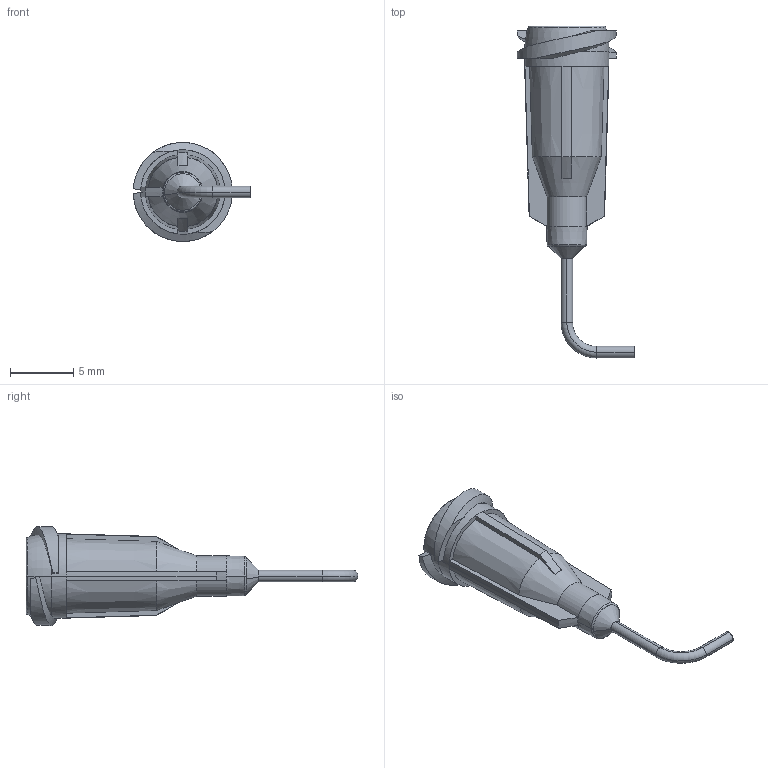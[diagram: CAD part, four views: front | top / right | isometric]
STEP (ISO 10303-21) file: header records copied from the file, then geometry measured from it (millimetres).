
FILE_DESCRIPTION (( 'STEP AP214' ), '1' );
FILE_NAME ('NORDSONEFD-7018176 TIP 20GA GP 023 90D PK.STEP', '2020-03-27T09:54:30', ( '' ), ( '' ), 'SwSTEP 2.0', 'SolidWorks 2019', '' );
FILE_SCHEMA (( 'AUTOMOTIVE_DESIGN' ));
Length unit declared in the file: inch
Products named in the file (1): NORDSONEFD-7018176 TIP 20GA GP 023 90D PK
Bounding box: 9.27 x 26.19 x 7.81 mm (x, y, z)
Volume: 267.3 mm3; surface area: 603.9 mm2
Topology: 1 solids, 1 shells, 128 faces, 298 edges, 176 vertices
Faces by surface type: torus 38, cylinder 30, plane 26, cone 22, bspline 12
Entity records: 4524 total; most frequent: CARTESIAN_POINT 1137, DIRECTION 646, ORIENTED_EDGE 596, EDGE_CURVE 298, AXIS2_PLACEMENT_3D 287, VERTEX_POINT 176, CIRCLE 170, EDGE_LOOP 134
